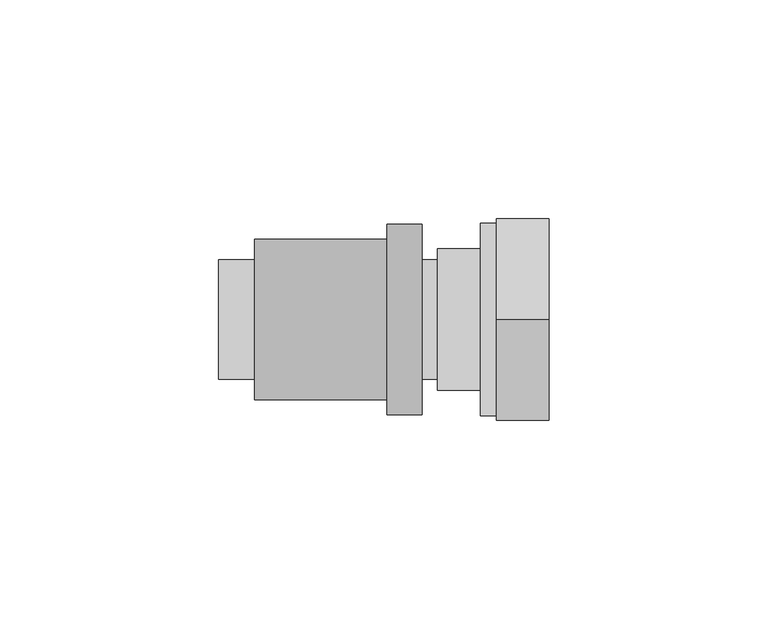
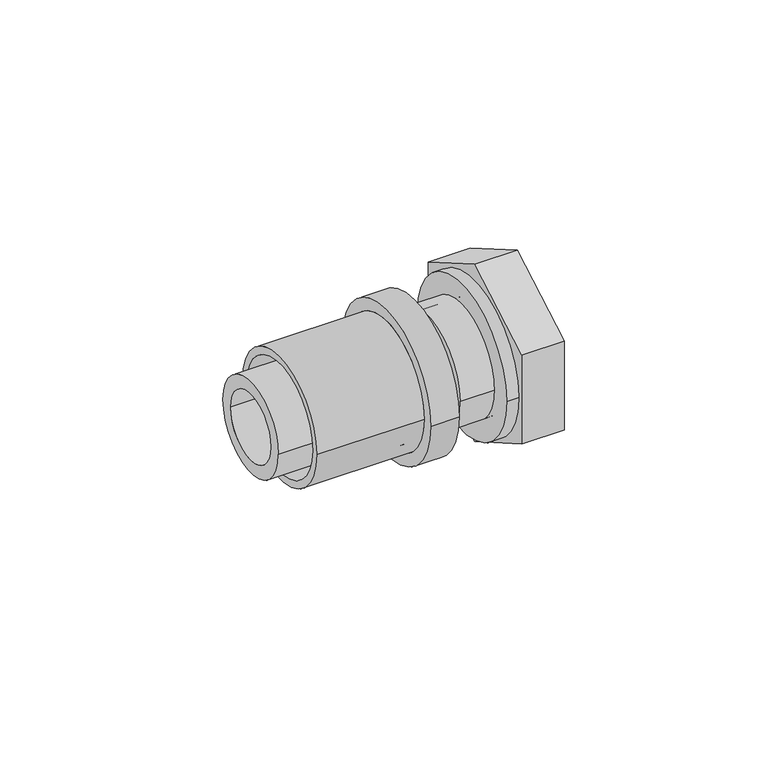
"""IFC4 building model written with IfcOpenShell, lengths in millimetres: pipe fitting geometry, FASTLOC_Adapter with union nut EX+ : FSL A union nut EX+ AT."""

from ifc_helpers import new_model, si_unit, point, frame, origin, origin_2d, place, context, project, spatial, polyline, circle_curve, trimmed, segment, composite_curve, outline, extrude, source, transform, mapped, element, save
from ifc_brep_helpers import plane_surface, cylinder_surface, revolved_surface, advanced_brep


def pipe_fitting_1c80bece(model_context):
    return source(origin(), model_context, "Body", "SolidModel", [
        advanced_brep(
        [(-11.5, -21.8, 0.0), (-11.5, 21.8, 0.0), (-3.5, 21.8, 0.0), (-3.5, -21.8, 0.0), (-41.8, -18.35, 0.0), (-41.8, 18.35, 0.0), (-11.5, 18.35, 0.0), (-11.5, -18.35, 0.0), (-3.5, -16.2, 0.0), (-3.5, 16.2, 0.0), (-41.8, 16.2, 0.0), (-41.8, -16.2, 0.0)],
        [
            (0, 1, circle_curve(frame((-11.5, 0.0, 0.0), z_axis=(1.0, 0.0, 0.0), x_axis=(0.0, 1.0, 0.0)), 21.8)),
            (1, 2),
            (2, 3, circle_curve(frame((-3.5, 0.0, 0.0), z_axis=(-1.0, 0.0, 0.0), x_axis=(0.0, 1.0, 0.0)), 21.8)),
            (3, 0),
            (4, 5, circle_curve(frame((-41.8, 0.0, 0.0), z_axis=(1.0, 0.0, 0.0), x_axis=(0.0, 1.0, 0.0)), 18.35)),
            (5, 6),
            (6, 7, circle_curve(frame((-11.5, 0.0, 0.0), z_axis=(-1.0, 0.0, 0.0), x_axis=(0.0, 1.0, 0.0)), 18.35)),
            (7, 4),
            (8, 9, circle_curve(frame((-3.5, 0.0, 0.0), z_axis=(1.0, 0.0, 0.0), x_axis=(0.0, 1.0, 0.0)), 16.2)),
            (9, 10),
            (10, 11, circle_curve(frame((-41.8, 0.0, 0.0), z_axis=(-1.0, 0.0, 0.0), x_axis=(0.0, 1.0, 0.0)), 16.2)),
            (11, 8),
            (1, 0, circle_curve(frame((-11.5, 0.0, 0.0), z_axis=(1.0, 0.0, 0.0), x_axis=(0.0, -1.0, 0.0)), 21.8)),
            (3, 2, circle_curve(frame((-3.5, 0.0, 0.0), z_axis=(-1.0, 0.0, 0.0), x_axis=(0.0, -1.0, 0.0)), 21.8)),
            (6, 7, circle_curve(frame((-11.5, 0.0, 0.0), z_axis=(1.0, 0.0, 0.0), x_axis=(0.0, -1.0, 0.0)), 18.35)),
            (5, 4, circle_curve(frame((-41.8, 0.0, 0.0), z_axis=(1.0, 0.0, 0.0), x_axis=(0.0, -1.0, 0.0)), 18.35)),
            (10, 11, circle_curve(frame((-41.8, 0.0, 0.0), z_axis=(1.0, 0.0, 0.0), x_axis=(0.0, -1.0, 0.0)), 16.2)),
            (9, 8, circle_curve(frame((-3.5, 0.0, 0.0), z_axis=(1.0, 0.0, 0.0), x_axis=(0.0, -1.0, 0.0)), 16.2)),
        ],
        [
            cylinder_surface(frame((-3.5, 0.0, 0.0), z_axis=(-1.0, 0.0, 0.0), x_axis=(0.0, 1.0, 0.0)), 21.8),
            cylinder_surface(frame((-3.5, 0.0, 0.0), z_axis=(-1.0, 0.0, 0.0), x_axis=(0.0, 1.0, 0.0)), 18.35),
            revolved_surface(polyline([(-41.8, 16.2, 0.0), (-3.5, 16.2, 0.0)]), (-3.5, 0.0, 0.0), (-1.0, 0.0, 0.0)),
            cylinder_surface(frame((-3.5, 0.0, 0.0), z_axis=(-1.0, 0.0, 0.0), x_axis=(0.0, -1.0, 0.0)), 21.8),
            plane_surface(frame((-11.5, 0.0, 0.0), z_axis=(-1.0, 0.0, 0.0), x_axis=(0.0, -1.0, 0.0))),
            cylinder_surface(frame((-3.5, 0.0, 0.0), z_axis=(-1.0, 0.0, 0.0), x_axis=(0.0, -1.0, 0.0)), 18.35),
            plane_surface(frame((-41.8, 0.0, 0.0), z_axis=(-1.0, 0.0, 0.0), x_axis=(0.0, -1.0, 0.0))),
            revolved_surface(polyline([(-41.8, -16.2, 0.0), (-3.5, -16.2, 0.0)]), (-3.5, 0.0, 0.0), (-1.0, 0.0, 0.0)),
            plane_surface(frame((-3.5, 0.0, 0.0), z_axis=(1.0, 0.0, 0.0), x_axis=(0.0, -1.0, 0.0))),
        ],
        [
            (0, [[1, 2, 3, 4]]),
            (1, [[5, 6, 7, 8]]),
            (2, [[9, 10, 11, 12]]),
            (3, [[13, -4, 14, -2]]),
            (4, [[-13, -1], [15, -7]]),
            (5, [[16, -8, -15, -6]]),
            (6, [[-16, -5], [17, -11]]),
            (7, [[18, -12, -17, -10]]),
            (8, [[-14, -3], [-18, -9]]),
        ],
    ),
        advanced_brep(
        [(-18.75, 13.625, 0.0), (-18.75, -13.625, 0.0), (-50.0, -13.625, 0.0), (-50.0, 13.625, 0.0), (-13.125, 16.0, 0.0), (-13.125, -16.0, 0.0), (-18.75, -16.0, 0.0), (-18.75, 16.0, 0.0), (0.0, 13.625, 0.0), (0.0, -13.625, 0.0), (-13.125, -13.625, 0.0), (-13.125, 13.625, 0.0), (-50.0, 9.85, 0.0), (-50.0, -9.85, 0.0), (0.0, -9.85, 0.0), (0.0, 9.85, 0.0)],
        [
            (0, 1, circle_curve(frame((-18.75, 0.0, 0.0), z_axis=(-1.0, 0.0, 0.0), x_axis=(0.0, -1.0, 0.0)), 13.625)),
            (1, 2),
            (2, 3, circle_curve(frame((-50.0, 0.0, 0.0), z_axis=(1.0, 0.0, 0.0), x_axis=(0.0, -1.0, 0.0)), 13.625)),
            (3, 0),
            (4, 5, circle_curve(frame((-13.125, 0.0, 0.0), z_axis=(-1.0, 0.0, 0.0), x_axis=(0.0, -1.0, 0.0)), 16.0)),
            (5, 6),
            (6, 7, circle_curve(frame((-18.75, 0.0, 0.0), z_axis=(1.0, 0.0, 0.0), x_axis=(0.0, -1.0, 0.0)), 16.0)),
            (7, 4),
            (8, 9, circle_curve(frame((0.0, 0.0, 0.0), z_axis=(-1.0, 0.0, 0.0), x_axis=(0.0, -1.0, 0.0)), 13.625)),
            (9, 10),
            (10, 11, circle_curve(frame((-13.125, 0.0, 0.0), z_axis=(1.0, 0.0, 0.0), x_axis=(0.0, -1.0, 0.0)), 13.625)),
            (11, 8),
            (12, 13, circle_curve(frame((-50.0, 0.0, 0.0), z_axis=(-1.0, 0.0, 0.0), x_axis=(0.0, -1.0, 0.0)), 9.85)),
            (13, 14),
            (14, 15, circle_curve(frame((0.0, 0.0, 0.0), z_axis=(1.0, 0.0, 0.0), x_axis=(0.0, -1.0, 0.0)), 9.85)),
            (15, 12),
            (2, 3, circle_curve(frame((-50.0, 0.0, 0.0), z_axis=(-1.0, 0.0, 0.0), x_axis=(0.0, 1.0, 0.0)), 13.625)),
            (12, 13, circle_curve(frame((-50.0, 0.0, 0.0), z_axis=(1.0, 0.0, 0.0), x_axis=(0.0, 1.0, 0.0)), 9.85)),
            (1, 0, circle_curve(frame((-18.75, 0.0, 0.0), z_axis=(-1.0, 0.0, 0.0), x_axis=(0.0, 1.0, 0.0)), 13.625)),
            (6, 7, circle_curve(frame((-18.75, 0.0, 0.0), z_axis=(-1.0, 0.0, 0.0), x_axis=(0.0, 1.0, 0.0)), 16.0)),
            (5, 4, circle_curve(frame((-13.125, 0.0, 0.0), z_axis=(-1.0, 0.0, 0.0), x_axis=(0.0, 1.0, 0.0)), 16.0)),
            (10, 11, circle_curve(frame((-13.125, 0.0, 0.0), z_axis=(-1.0, 0.0, 0.0), x_axis=(0.0, 1.0, 0.0)), 13.625)),
            (9, 8, circle_curve(frame((0.0, 0.0, 0.0), z_axis=(-1.0, 0.0, 0.0), x_axis=(0.0, 1.0, 0.0)), 13.625)),
            (14, 15, circle_curve(frame((0.0, 0.0, 0.0), z_axis=(-1.0, 0.0, 0.0), x_axis=(0.0, 1.0, 0.0)), 9.85)),
        ],
        [
            cylinder_surface(frame((0.0, 0.0, 0.0), z_axis=(1.0, 0.0, 0.0), x_axis=(0.0, -1.0, 0.0)), 13.625),
            cylinder_surface(frame((0.0, 0.0, 0.0), z_axis=(1.0, 0.0, 0.0), x_axis=(0.0, -1.0, 0.0)), 16.0),
            revolved_surface(polyline([(0.0, -9.85, 0.0), (-50.0, -9.85, 0.0)]), (0.0, 0.0, 0.0), (1.0, 0.0, 0.0)),
            plane_surface(frame((-50.0, 0.0, 0.0), z_axis=(-1.0, 0.0, 0.0), x_axis=(0.0, 1.0, 0.0))),
            cylinder_surface(frame((0.0, 0.0, 0.0), z_axis=(1.0, 0.0, 0.0), x_axis=(0.0, 1.0, 0.0)), 13.625),
            plane_surface(frame((-18.75, 0.0, 0.0), z_axis=(-1.0, 0.0, 0.0), x_axis=(0.0, 1.0, 0.0))),
            cylinder_surface(frame((0.0, 0.0, 0.0), z_axis=(1.0, 0.0, 0.0), x_axis=(0.0, 1.0, 0.0)), 16.0),
            plane_surface(frame((-13.125, 0.0, 0.0), z_axis=(1.0, 0.0, 0.0), x_axis=(0.0, 1.0, 0.0))),
            plane_surface(frame((0.0, 0.0, 0.0), z_axis=(1.0, 0.0, 0.0), x_axis=(0.0, 1.0, 0.0))),
            revolved_surface(polyline([(0.0, 9.85, 0.0), (-50.0, 9.85, 0.0)]), (0.0, 0.0, 0.0), (1.0, 0.0, 0.0)),
        ],
        [
            (0, [[1, 2, 3, 4]]),
            (1, [[5, 6, 7, 8]]),
            (0, [[9, 10, 11, 12]]),
            (2, [[13, 14, 15, 16]]),
            (3, [[17, -3], [18, -13]]),
            (4, [[19, -4, -17, -2]]),
            (5, [[20, -7], [-19, -1]]),
            (6, [[21, -8, -20, -6]]),
            (7, [[-21, -5], [22, -11]]),
            (4, [[23, -12, -22, -10]]),
            (8, [[-23, -9], [24, -15]]),
            (9, [[-18, -16, -24, -14]]),
        ],
    ),
        extrude(outline(polyline([(0.0, -26.5581124), (-23.0, -13.2790562), (-23.0, 13.2790562), (0.0, 26.5581124), (23.0, 13.2790562), (23.0, -13.2790562), (0.0, -26.5581124)]), holes=[composite_curve([segment(trimmed(circle_curve(origin_2d(), 19.0), [point((-19.0, 0.0))], [point((19.0, 0.0))], True, "CARTESIAN"), True, "CONTINUOUS"), segment(trimmed(circle_curve(origin_2d(), 19.0), [point((19.0, 0.0))], [point((-19.0, 0.0))], True, "CARTESIAN"), True, "CONTINUOUS")], self_intersect=False)]), frame((13.5, 0.0, 0.0), z_axis=(1.0, 0.0, 0.0), x_axis=(0.0, 1.0, 0.0)), (0.0, 0.0, 1.0), 12.0),
        advanced_brep(
        [(25.5, 22.0, 0.0), (25.5, -22.0, 0.0), (9.9, -22.0, 0.0), (9.9, 22.0, 0.0), (13.5, 19.0, 0.0), (13.5, -19.0, 0.0), (25.5, -19.0, 0.0), (25.5, 19.0, 0.0), (9.9, 15.4, 0.0), (9.9, -15.4, 0.0), (13.5, -15.4, 0.0), (13.5, 15.4, 0.0)],
        [
            (0, 1, circle_curve(frame((25.5, 0.0, 0.0), z_axis=(-1.0, 0.0, 0.0), x_axis=(0.0, -1.0, 0.0)), 22.0)),
            (1, 2),
            (2, 3, circle_curve(frame((9.9, 0.0, 0.0), z_axis=(1.0, 0.0, 0.0), x_axis=(0.0, -1.0, 0.0)), 22.0)),
            (3, 0),
            (4, 5, circle_curve(frame((13.5, 0.0, 0.0), z_axis=(-1.0, 0.0, 0.0), x_axis=(0.0, -1.0, 0.0)), 19.0)),
            (5, 6),
            (6, 7, circle_curve(frame((25.5, 0.0, 0.0), z_axis=(1.0, 0.0, 0.0), x_axis=(0.0, -1.0, 0.0)), 19.0)),
            (7, 4),
            (8, 9, circle_curve(frame((9.9, 0.0, 0.0), z_axis=(-1.0, 0.0, 0.0), x_axis=(0.0, -1.0, 0.0)), 15.4)),
            (9, 10),
            (10, 11, circle_curve(frame((13.5, 0.0, 0.0), z_axis=(1.0, 0.0, 0.0), x_axis=(0.0, -1.0, 0.0)), 15.4)),
            (11, 8),
            (1, 0, circle_curve(frame((25.5, 0.0, 0.0), z_axis=(-1.0, 0.0, 0.0), x_axis=(0.0, 1.0, 0.0)), 22.0)),
            (3, 2, circle_curve(frame((9.9, 0.0, 0.0), z_axis=(1.0, 0.0, 0.0), x_axis=(0.0, 1.0, 0.0)), 22.0)),
            (6, 7, circle_curve(frame((25.5, 0.0, 0.0), z_axis=(-1.0, 0.0, 0.0), x_axis=(0.0, 1.0, 0.0)), 19.0)),
            (5, 4, circle_curve(frame((13.5, 0.0, 0.0), z_axis=(-1.0, 0.0, 0.0), x_axis=(0.0, 1.0, 0.0)), 19.0)),
            (10, 11, circle_curve(frame((13.5, 0.0, 0.0), z_axis=(-1.0, 0.0, 0.0), x_axis=(0.0, 1.0, 0.0)), 15.4)),
            (9, 8, circle_curve(frame((9.9, 0.0, 0.0), z_axis=(-1.0, 0.0, 0.0), x_axis=(0.0, 1.0, 0.0)), 15.4)),
        ],
        [
            cylinder_surface(frame((0.0, 0.0, 0.0), z_axis=(1.0, 0.0, 0.0), x_axis=(0.0, -1.0, 0.0)), 22.0),
            revolved_surface(polyline([(25.5, -19.0, 0.0), (13.5, -19.0, 0.0)]), (0.0, 0.0, 0.0), (1.0, 0.0, 0.0)),
            revolved_surface(polyline([(13.5, -15.4, 0.0), (9.9, -15.4, 0.0)]), (0.0, 0.0, 0.0), (1.0, 0.0, 0.0)),
            cylinder_surface(frame((0.0, 0.0, 0.0), z_axis=(1.0, 0.0, 0.0), x_axis=(0.0, 1.0, 0.0)), 22.0),
            plane_surface(frame((25.5, 0.0, 0.0), z_axis=(1.0, 0.0, 0.0), x_axis=(0.0, 1.0, 0.0))),
            revolved_surface(polyline([(25.5, 19.0, 0.0), (13.5, 19.0, 0.0)]), (0.0, 0.0, 0.0), (1.0, 0.0, 0.0)),
            plane_surface(frame((13.5, 0.0, 0.0), z_axis=(1.0, 0.0, 0.0), x_axis=(0.0, 1.0, 0.0))),
            revolved_surface(polyline([(13.5, 15.4, 0.0), (9.9, 15.4, 0.0)]), (0.0, 0.0, 0.0), (1.0, 0.0, 0.0)),
            plane_surface(frame((9.9, 0.0, 0.0), z_axis=(-1.0, 0.0, 0.0), x_axis=(0.0, 1.0, 0.0))),
        ],
        [
            (0, [[1, 2, 3, 4]]),
            (1, [[5, 6, 7, 8]]),
            (2, [[9, 10, 11, 12]]),
            (3, [[13, -4, 14, -2]]),
            (4, [[-13, -1], [15, -7]]),
            (5, [[16, -8, -15, -6]]),
            (6, [[-16, -5], [17, -11]]),
            (7, [[18, -12, -17, -10]]),
            (8, [[-14, -3], [-18, -9]]),
        ],
    ),
        advanced_brep(
        [(12.0, 16.175, 0.0), (12.0, -16.175, 0.0), (0.0, -16.175, 0.0), (0.0, 16.175, 0.0), (13.95, 20.15, 0.0), (13.95, -20.15, 0.0), (12.0, -20.15, 0.0), (12.0, 20.15, 0.0), (1.4730817, 14.15, 0.0), (1.4730817, -14.15, 0.0), (13.95, -14.15, 0.0), (13.95, 14.15, 0.0), (0.0, 11.9764556, 0.0), (0.0, -11.9764556, 0.0), (1.4730817, -11.9764556, 0.0), (1.4730817, 11.9764556, 0.0)],
        [
            (0, 1, circle_curve(frame((12.0, 0.0, 0.0), z_axis=(-1.0, 0.0, 0.0), x_axis=(0.0, -1.0, 0.0)), 16.175)),
            (1, 2),
            (2, 3, circle_curve(frame((0.0, 0.0, 0.0), z_axis=(1.0, 0.0, 0.0), x_axis=(0.0, -1.0, 0.0)), 16.175)),
            (3, 0),
            (4, 5, circle_curve(frame((13.95, 0.0, 0.0), z_axis=(-1.0, 0.0, 0.0), x_axis=(0.0, -1.0, 0.0)), 20.15)),
            (5, 6),
            (6, 7, circle_curve(frame((12.0, 0.0, 0.0), z_axis=(1.0, 0.0, 0.0), x_axis=(0.0, -1.0, 0.0)), 20.15)),
            (7, 4),
            (8, 9, circle_curve(frame((1.4730817, 0.0, 0.0), z_axis=(-1.0, 0.0, 0.0), x_axis=(0.0, -1.0, 0.0)), 14.15)),
            (9, 10),
            (10, 11, circle_curve(frame((13.95, 0.0, 0.0), z_axis=(1.0, 0.0, 0.0), x_axis=(0.0, -1.0, 0.0)), 14.15)),
            (11, 8),
            (12, 13, circle_curve(frame((0.0, 0.0, 0.0), z_axis=(-1.0, 0.0, 0.0), x_axis=(0.0, -1.0, 0.0)), 11.9764556)),
            (13, 14),
            (14, 15, circle_curve(frame((1.4730817, 0.0, 0.0), z_axis=(1.0, 0.0, 0.0), x_axis=(0.0, -1.0, 0.0)), 11.9764556)),
            (15, 12),
            (2, 3, circle_curve(frame((0.0, 0.0, 0.0), z_axis=(-1.0, 0.0, 0.0), x_axis=(0.0, 1.0, 0.0)), 16.175)),
            (12, 13, circle_curve(frame((0.0, 0.0, 0.0), z_axis=(1.0, 0.0, 0.0), x_axis=(0.0, 1.0, 0.0)), 11.9764556)),
            (1, 0, circle_curve(frame((12.0, 0.0, 0.0), z_axis=(-1.0, 0.0, 0.0), x_axis=(0.0, 1.0, 0.0)), 16.175)),
            (6, 7, circle_curve(frame((12.0, 0.0, 0.0), z_axis=(-1.0, 0.0, 0.0), x_axis=(0.0, 1.0, 0.0)), 20.15)),
            (5, 4, circle_curve(frame((13.95, 0.0, 0.0), z_axis=(-1.0, 0.0, 0.0), x_axis=(0.0, 1.0, 0.0)), 20.15)),
            (10, 11, circle_curve(frame((13.95, 0.0, 0.0), z_axis=(-1.0, 0.0, 0.0), x_axis=(0.0, 1.0, 0.0)), 14.15)),
            (9, 8, circle_curve(frame((1.4730817, 0.0, 0.0), z_axis=(-1.0, 0.0, 0.0), x_axis=(0.0, 1.0, 0.0)), 14.15)),
            (14, 15, circle_curve(frame((1.4730817, 0.0, 0.0), z_axis=(-1.0, 0.0, 0.0), x_axis=(0.0, 1.0, 0.0)), 11.9764556)),
        ],
        [
            cylinder_surface(frame((0.0, 0.0, 0.0), z_axis=(1.0, 0.0, 0.0), x_axis=(0.0, -1.0, 0.0)), 16.175),
            cylinder_surface(frame((0.0, 0.0, 0.0), z_axis=(1.0, 0.0, 0.0), x_axis=(0.0, -1.0, 0.0)), 20.15),
            revolved_surface(polyline([(13.95, -14.15, 0.0), (1.4730817, -14.15, 0.0)]), (0.0, 0.0, 0.0), (1.0, 0.0, 0.0)),
            revolved_surface(polyline([(1.4730817, -11.9764556, 0.0), (0.0, -11.9764556, 0.0)]), (0.0, 0.0, 0.0), (1.0, 0.0, 0.0)),
            plane_surface(frame((0.0, 0.0, 0.0), z_axis=(-1.0, 0.0, 0.0), x_axis=(0.0, 1.0, 0.0))),
            cylinder_surface(frame((0.0, 0.0, 0.0), z_axis=(1.0, 0.0, 0.0), x_axis=(0.0, 1.0, 0.0)), 16.175),
            plane_surface(frame((12.0, 0.0, 0.0), z_axis=(-1.0, 0.0, 0.0), x_axis=(0.0, 1.0, 0.0))),
            cylinder_surface(frame((0.0, 0.0, 0.0), z_axis=(1.0, 0.0, 0.0), x_axis=(0.0, 1.0, 0.0)), 20.15),
            plane_surface(frame((13.95, 0.0, 0.0), z_axis=(1.0, 0.0, 0.0), x_axis=(0.0, 1.0, 0.0))),
            revolved_surface(polyline([(13.95, 14.15, 0.0), (1.4730817, 14.15, 0.0)]), (0.0, 0.0, 0.0), (1.0, 0.0, 0.0)),
            plane_surface(frame((1.4730817, 0.0, 0.0), z_axis=(1.0, 0.0, 0.0), x_axis=(0.0, 1.0, 0.0))),
            revolved_surface(polyline([(1.4730817, 11.9764556, 0.0), (0.0, 11.9764556, 0.0)]), (0.0, 0.0, 0.0), (1.0, 0.0, 0.0)),
        ],
        [
            (0, [[1, 2, 3, 4]]),
            (1, [[5, 6, 7, 8]]),
            (2, [[9, 10, 11, 12]]),
            (3, [[13, 14, 15, 16]]),
            (4, [[17, -3], [18, -13]]),
            (5, [[19, -4, -17, -2]]),
            (6, [[20, -7], [-19, -1]]),
            (7, [[21, -8, -20, -6]]),
            (8, [[-21, -5], [22, -11]]),
            (9, [[23, -12, -22, -10]]),
            (10, [[-23, -9], [24, -15]]),
            (11, [[-18, -16, -24, -14]]),
        ],
    ),
    ])


if __name__ == "__main__":
    model = new_model("IFC4")
    model_context = context("Model", 3, world=origin())
    ifc_project = project(units=[si_unit("LENGTHUNIT", "METRE", prefix="MILLI")], contexts=[model_context])
    site = spatial("IfcSite", under=ifc_project)
    building = spatial("IfcBuilding", under=site)
    placement = place(None, origin())
    pipe_fitting_shape = pipe_fitting_1c80bece(model_context)
    element("IfcPipeFitting", 1, ObjectType="FASTLOC_Adapter with union nut EX+ : FSL A union nut EX+ AT", at=placement, inside=building, context=model_context, shape_type="MappedRepresentation", body=[
        mapped(pipe_fitting_shape, transform((0.0, 0.0, 0.0), x_axis=(1.0, 0.0, 0.0), y_axis=(0.0, 1.0, 0.0), z_axis=(0.0, 0.0, 1.0))),
    ])
    save(model, "model.ifc")
